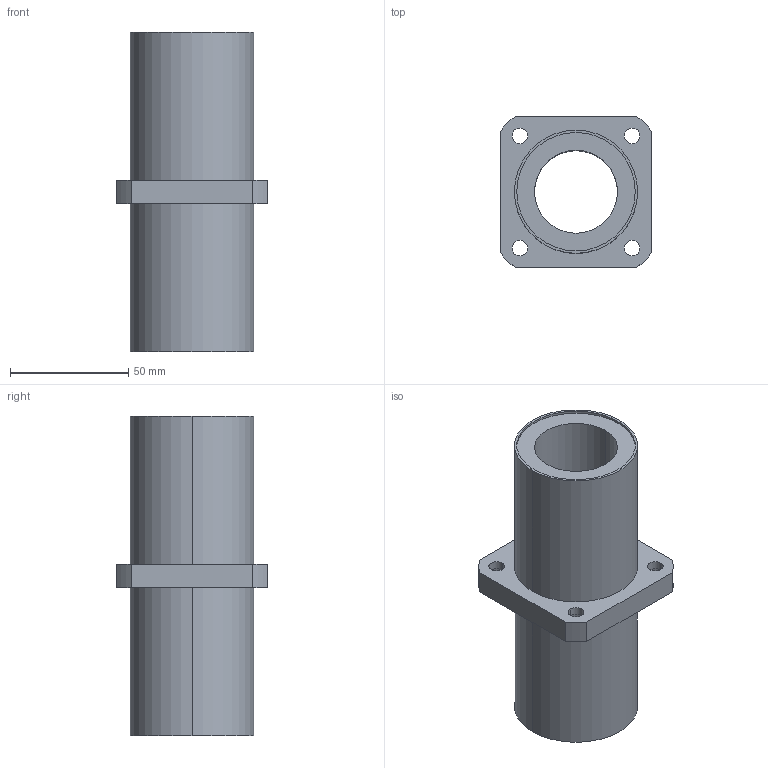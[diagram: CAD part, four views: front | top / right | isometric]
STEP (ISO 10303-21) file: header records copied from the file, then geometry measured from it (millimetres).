
FILE_DESCRIPTION((''),'2;1');
FILE_NAME('C:\Documents and Settings\ｿﾀﾀ蠑ｷ1\ｹﾙﾅﾁ ﾈｭｸ饅\ｺﾎﾇｰﾆﾄﾀﾏ\ﾁｦﾇｰ\LMKM__UU\LMKM35UU.stp','2005-06-15T13:28:41',('ｿﾀﾀ蠑ｷ1'),(''),'Autodesk Inventor 9','Autodesk Inventor 9','');
FILE_SCHEMA(('AUTOMOTIVE_DESIGN { 1 0 10303 214 1 1 1 1 }'));
Length unit declared in the file: millimetre
Products named in the file (1): LMKM__
Bounding box: 64 x 64 x 135 mm (x, y, z)
Volume: 170835.3 mm3; surface area: 44802.7 mm2
Topology: 1 solids, 1 shells, 44 faces, 102 edges, 68 vertices
Faces by surface type: cylinder 30, plane 14
Entity records: 1329 total; most frequent: DIRECTION 252, CARTESIAN_POINT 215, ORIENTED_EDGE 204, AXIS2_PLACEMENT_3D 105, EDGE_CURVE 102, VERTEX_POINT 68, EDGE_LOOP 62, CIRCLE 60
